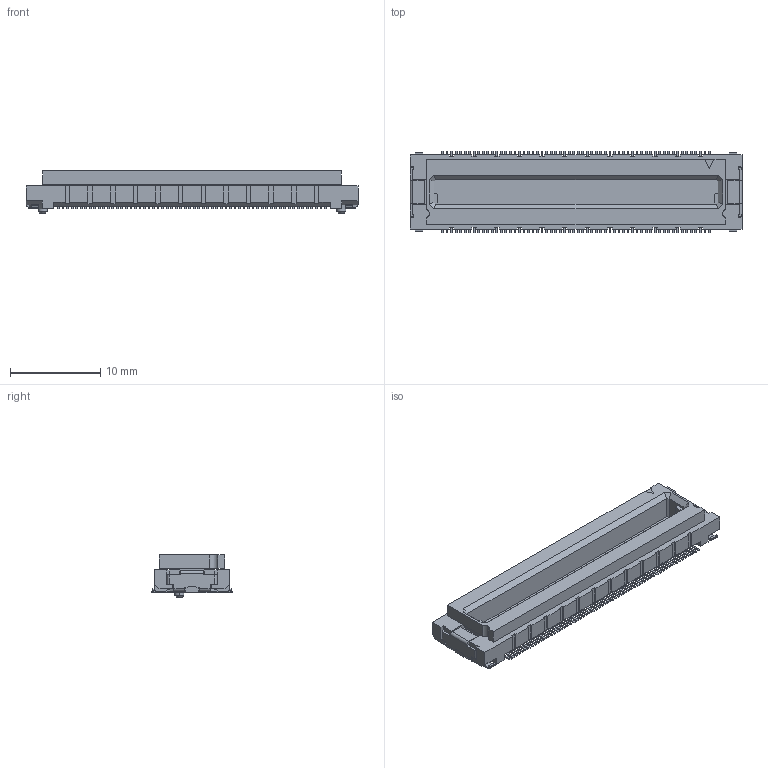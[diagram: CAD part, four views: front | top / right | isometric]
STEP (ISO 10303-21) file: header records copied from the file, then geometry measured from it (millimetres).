
FILE_DESCRIPTION(('Creo Elements/Direct Modeling STEP Export'),'2;1');
FILE_NAME('P39563_DY01-120S.stp','2017-08-10T14:29:09',(''),(''),'Creo Elements/Direct Modeling STEP processor for AP214 (Solid Model)','Creo Elements/Direct Modeling 19.0F 14-Feb-2017 (C) Parametric Technology GmbH','');
FILE_SCHEMA(('AUTOMOTIVE_DESIGN { 1 0 10303 214 1 1 1 1 }'));
Products named in the file (2): DY01-120S
Assembly tree (1 placements, depth 2):
  DY01-120S
    DY01-120S
Bounding box: 36.7 x 9 x 4.65 mm (x, y, z)
Volume: 766 mm3; surface area: 1657 mm2
Topology: 1 solids, 1 shells, 3615 faces, 10091 edges, 6722 vertices
Faces by surface type: plane 3082, cylinder 529, cone 4
Entity records: 114887 total; most frequent: CARTESIAN_POINT 20269, ORIENTED_EDGE 20182, DIRECTION 18193, EDGE_CURVE 10091, VECTOR 8901, LINE 8901, VERTEX_POINT 6722, AXIS2_PLACEMENT_3D 4646
